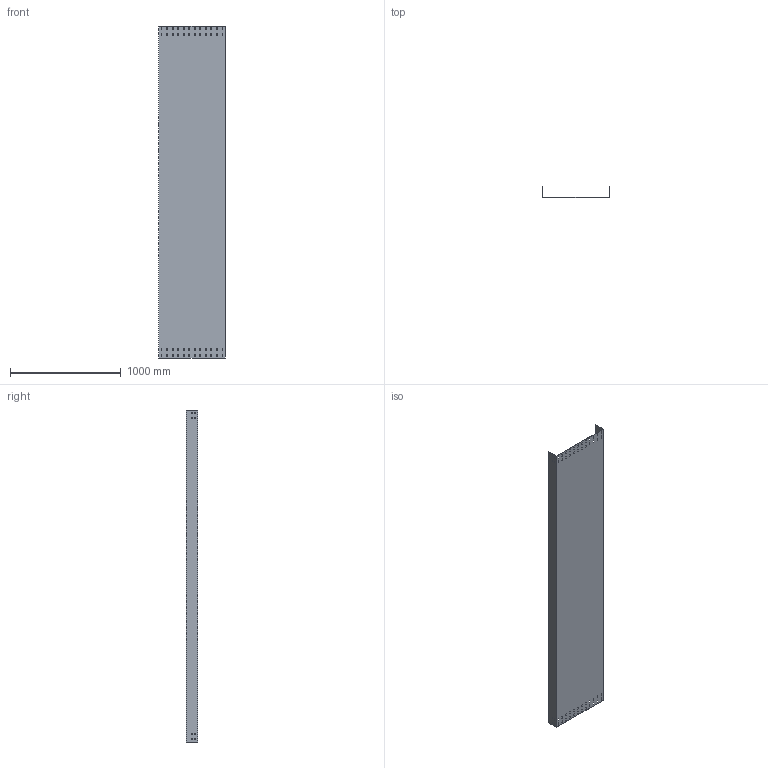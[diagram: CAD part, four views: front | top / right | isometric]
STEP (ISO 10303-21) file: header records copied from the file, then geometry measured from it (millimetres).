
FILE_DESCRIPTION (( 'STEP AP214' ), '1' );
FILE_NAME ('CF_601.step', '2025-07-16T09:06:23', ( '' ), ( '' ), 'SwSTEP 2.0', 'SolidWorks 2023', '' );
FILE_SCHEMA (( 'AUTOMOTIVE_DESIGN' ));
Length unit declared in the file: millimetre
Products named in the file (1): CF_601
Bounding box: 600 x 100 x 3000 mm (x, y, z)
Volume: 3574740 mm3; surface area: 4782415 mm2
Topology: 1 solids, 1 shells, 266 faces, 792 edges, 528 vertices
Faces by surface type: plane 266
Entity records: 9015 total; most frequent: CARTESIAN_POINT 1587, ORIENTED_EDGE 1584, DIRECTION 1326, EDGE_CURVE 792, LINE 792, VECTOR 792, VERTEX_POINT 528, EDGE_LOOP 394
